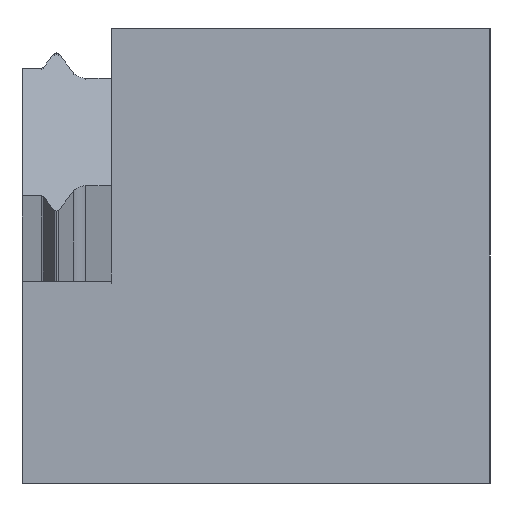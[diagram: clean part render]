
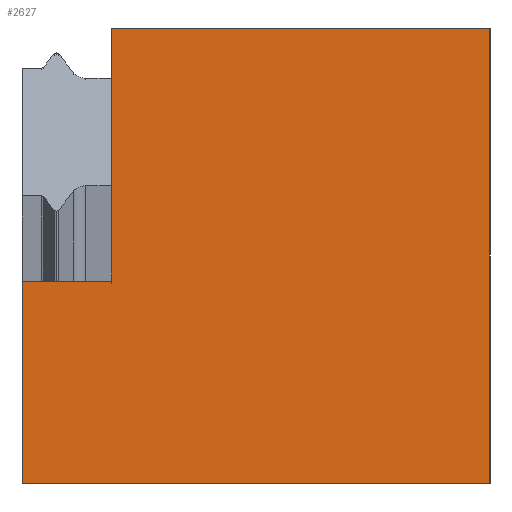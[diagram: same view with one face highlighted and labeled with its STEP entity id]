
A CAD part, left-side view. The second image highlights one B-rep face of the part: STEP entity #2627.
In plain terms, the highlighted planar face has unit normal (-1, 0, 0).
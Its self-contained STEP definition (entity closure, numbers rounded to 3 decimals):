
#44 = VECTOR ( 'NONE', #2312, 1000. ) ;
#130 = DIRECTION ( 'NONE',  ( 0., 0., -1. ) ) ;
#209 = CARTESIAN_POINT ( 'NONE',  ( -72., 17., 33. ) ) ;
#260 = CARTESIAN_POINT ( 'NONE',  ( -72., 10.5, 14.684 ) ) ;
#336 = VERTEX_POINT ( 'NONE', #1850 ) ;
#402 = AXIS2_PLACEMENT_3D ( 'NONE', #3049, #2469, #1650 ) ;
#486 = CARTESIAN_POINT ( 'NONE',  ( -72., 17., 0. ) ) ;
#499 = EDGE_CURVE ( 'NONE', #1578, #336, #3331, .T. ) ;
#539 = FACE_OUTER_BOUND ( 'NONE', #1637, .T. ) ;
#593 = LINE ( 'NONE', #3091, #44 ) ;
#614 = LINE ( 'NONE', #896, #2623 ) ;
#763 = ORIENTED_EDGE ( 'NONE', *, *, #499, .T. ) ;
#767 = EDGE_CURVE ( 'NONE', #1213, #336, #1030, .T. ) ;
#769 = CARTESIAN_POINT ( 'NONE',  ( -72., -17., 0. ) ) ;
#896 = CARTESIAN_POINT ( 'NONE',  ( -72., 10.5, 14.684 ) ) ;
#955 = EDGE_CURVE ( 'NONE', #1584, #1213, #593, .T. ) ;
#1030 = LINE ( 'NONE', #2688, #2615 ) ;
#1037 = DIRECTION ( 'NONE',  ( 0., 0., -1. ) ) ;
#1103 = ORIENTED_EDGE ( 'NONE', *, *, #767, .F. ) ;
#1175 = LINE ( 'NONE', #2284, #1922 ) ;
#1213 = VERTEX_POINT ( 'NONE', #2082 ) ;
#1496 = ORIENTED_EDGE ( 'NONE', *, *, #3498, .T. ) ;
#1578 = VERTEX_POINT ( 'NONE', #486 ) ;
#1584 = VERTEX_POINT ( 'NONE', #2392 ) ;
#1637 = EDGE_LOOP ( 'NONE', ( #2972, #1496, #3275, #763, #1103, #2384 ) ) ;
#1650 = DIRECTION ( 'NONE',  ( 0., 0., -1. ) ) ;
#1691 = PLANE ( 'NONE',  #402 ) ;
#1729 = DIRECTION ( 'NONE',  ( 0., 0., 1. ) ) ;
#1850 = CARTESIAN_POINT ( 'NONE',  ( -72., -17., 0. ) ) ;
#1855 = LINE ( 'NONE', #209, #1862 ) ;
#1862 = VECTOR ( 'NONE', #1037, 1000. ) ;
#1922 = VECTOR ( 'NONE', #2612, 1000. ) ;
#1948 = EDGE_CURVE ( 'NONE', #2413, #1584, #614, .T. ) ;
#2082 = CARTESIAN_POINT ( 'NONE',  ( -72., -17., 33. ) ) ;
#2197 = VECTOR ( 'NONE', #2463, 1000. ) ;
#2284 = CARTESIAN_POINT ( 'NONE',  ( -72., 10.5, 14.684 ) ) ;
#2312 = DIRECTION ( 'NONE',  ( 0., -1., 0. ) ) ;
#2384 = ORIENTED_EDGE ( 'NONE', *, *, #955, .F. ) ;
#2392 = CARTESIAN_POINT ( 'NONE',  ( -72., 10.5, 33. ) ) ;
#2413 = VERTEX_POINT ( 'NONE', #260 ) ;
#2463 = DIRECTION ( 'NONE',  ( 0., -1., 0. ) ) ;
#2469 = DIRECTION ( 'NONE',  ( 1., 0., 0. ) ) ;
#2472 = CARTESIAN_POINT ( 'NONE',  ( -72., 17., 14.684 ) ) ;
#2612 = DIRECTION ( 'NONE',  ( 0., 1., 0. ) ) ;
#2615 = VECTOR ( 'NONE', #130, 1000. ) ;
#2623 = VECTOR ( 'NONE', #1729, 1000. ) ;
#2627 = ADVANCED_FACE ( 'NONE', ( #539 ), #1691, .F. ) ;
#2688 = CARTESIAN_POINT ( 'NONE',  ( -72., -17., 33. ) ) ;
#2943 = EDGE_CURVE ( 'NONE', #3108, #1578, #1855, .T. ) ;
#2972 = ORIENTED_EDGE ( 'NONE', *, *, #1948, .F. ) ;
#3049 = CARTESIAN_POINT ( 'NONE',  ( -72., -17., 33. ) ) ;
#3091 = CARTESIAN_POINT ( 'NONE',  ( -72., -17., 33. ) ) ;
#3108 = VERTEX_POINT ( 'NONE', #2472 ) ;
#3275 = ORIENTED_EDGE ( 'NONE', *, *, #2943, .T. ) ;
#3331 = LINE ( 'NONE', #769, #2197 ) ;
#3498 = EDGE_CURVE ( 'NONE', #2413, #3108, #1175, .T. ) ;
